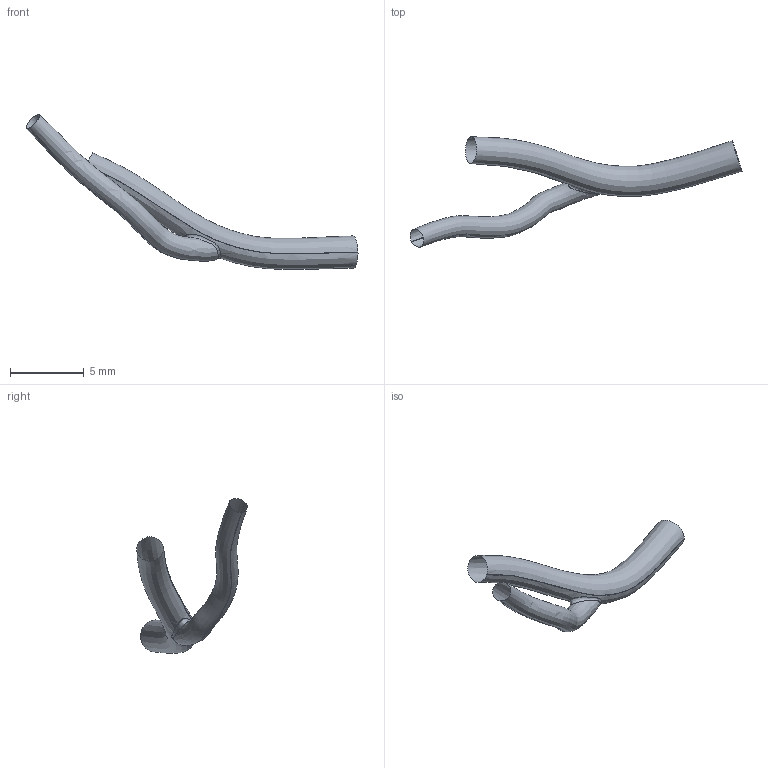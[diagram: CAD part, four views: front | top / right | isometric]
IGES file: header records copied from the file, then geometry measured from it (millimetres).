
Global section: file name: C:\Documents and Settings\Administrator\Desktop\FDA Bifurcation win\RawData_for_IGES\HRCA_Data\20010719.140840\IGES\20010719.140840.PDA.BIFUR.ED.igs; native system: Rhinoceros ( May 19 2006 ); preprocessor: Trout Lake IGES 012 May 19 2006; date: 100728.210730; units: centimetre
Bounding box: 22.46 x 7.47 x 10.49 mm (x, y, z)
Surface area: 194.4 mm2 (no closed solid volume)
Topology: 0 solids, 0 shells, 3 faces, 50 edges, 45 vertices
Faces by surface type: bspline 3
